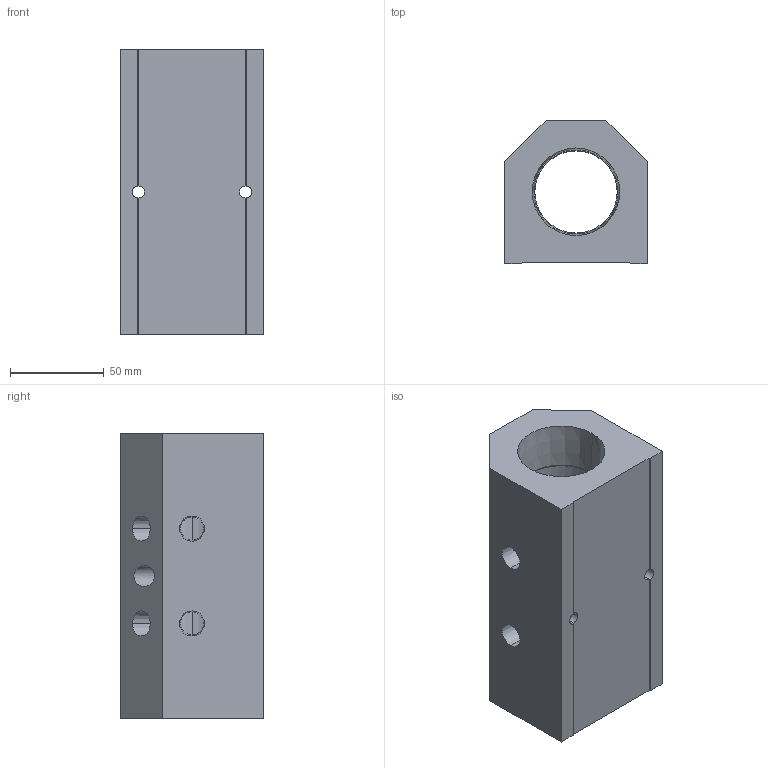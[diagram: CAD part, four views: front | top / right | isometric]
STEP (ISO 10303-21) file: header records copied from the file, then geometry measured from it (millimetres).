
FILE_DESCRIPTION (( 'STEP AP214' ), '1' );
FILE_NAME ('ALM2AB-N4N24-152B.step', '2022-02-07T07:46:04', ( '' ), ( '' ), 'SwSTEP 2.0', 'SolidWorks 2020', '' );
FILE_SCHEMA (( 'AUTOMOTIVE_DESIGN' ));
Length unit declared in the file: millimetre
Products named in the file (1): ALM2AB-N4N24-152B
Bounding box: 76.2 x 76.2 x 152 mm (x, y, z)
Volume: 551773.8 mm3; surface area: 75415.8 mm2
Topology: 1 solids, 1 shells, 297 faces, 784 edges, 520 vertices
Faces by surface type: plane 224, bspline 51, cone 12, cylinder 10
Entity records: 15606 total; most frequent: CARTESIAN_POINT 5677, ORIENTED_EDGE 1568, DIRECTION 1192, EDGE_CURVE 784, LINE 634, VECTOR 634, VERTEX_POINT 520, EDGE_LOOP 342
